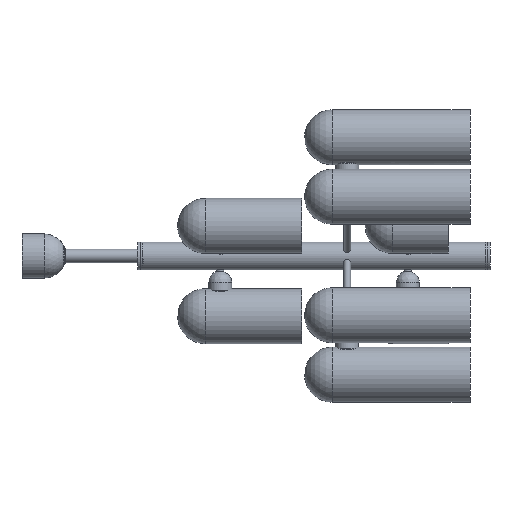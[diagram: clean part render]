
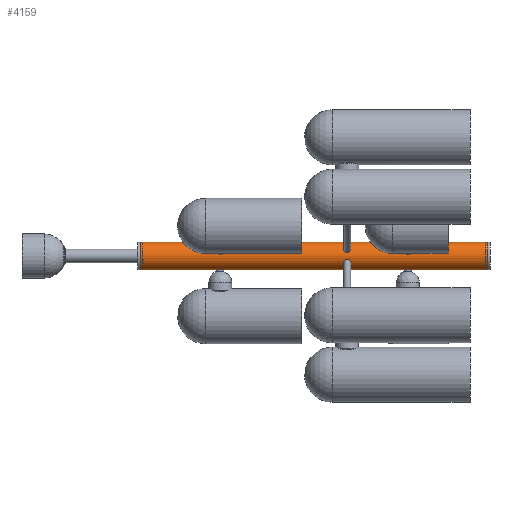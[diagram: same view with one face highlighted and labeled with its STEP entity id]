
A CAD part, left-side view. The second image highlights one B-rep face of the part: STEP entity #4159.
In plain terms, the highlighted cylindrical face has radius 25 mm (diameter 50 mm), a full revolution.
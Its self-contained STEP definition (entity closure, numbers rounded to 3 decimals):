
#395=FACE_OUTER_BOUND('',#713,.T.);
#713=EDGE_LOOP('',(#2622,#2623,#2624,#2625));
#1066=LINE('',#6512,#1253);
#1253=VECTOR('',#5158,25.);
#1440=CIRCLE('',#4570,25.);
#1441=CIRCLE('',#4571,25.);
#1743=VERTEX_POINT('',#6509);
#1744=VERTEX_POINT('',#6511);
#2096=EDGE_CURVE('',#1743,#1743,#1440,.T.);
#2097=EDGE_CURVE('',#1743,#1744,#1066,.T.);
#2098=EDGE_CURVE('',#1744,#1744,#1441,.T.);
#2622=ORIENTED_EDGE('',*,*,#2096,.F.);
#2623=ORIENTED_EDGE('',*,*,#2097,.T.);
#2624=ORIENTED_EDGE('',*,*,#2098,.F.);
#2625=ORIENTED_EDGE('',*,*,#2097,.F.);
#3674=CYLINDRICAL_SURFACE('',#4569,25.);
#4159=ADVANCED_FACE('',(#395),#3674,.T.);
#4569=AXIS2_PLACEMENT_3D('',#6508,#5154,#5155);
#4570=AXIS2_PLACEMENT_3D('',#6510,#5156,#5157);
#4571=AXIS2_PLACEMENT_3D('',#6513,#5159,#5160);
#5154=DIRECTION('center_axis',(0.,1.,0.));
#5155=DIRECTION('ref_axis',(-0.5,0.,-0.866));
#5156=DIRECTION('center_axis',(0.,1.,0.));
#5157=DIRECTION('ref_axis',(-0.5,0.,-0.866));
#5158=DIRECTION('',(0.,-1.,0.));
#5159=DIRECTION('center_axis',(0.,-1.,0.));
#5160=DIRECTION('ref_axis',(-0.5,0.,-0.866));
#6508=CARTESIAN_POINT('Origin',(0.,0.,0.));
#6509=CARTESIAN_POINT('',(12.5,630.,21.651));
#6510=CARTESIAN_POINT('Origin',(0.,630.,0.));
#6511=CARTESIAN_POINT('',(12.5,0.,21.651));
#6512=CARTESIAN_POINT('',(12.5,0.,21.651));
#6513=CARTESIAN_POINT('Origin',(0.,0.,0.));
